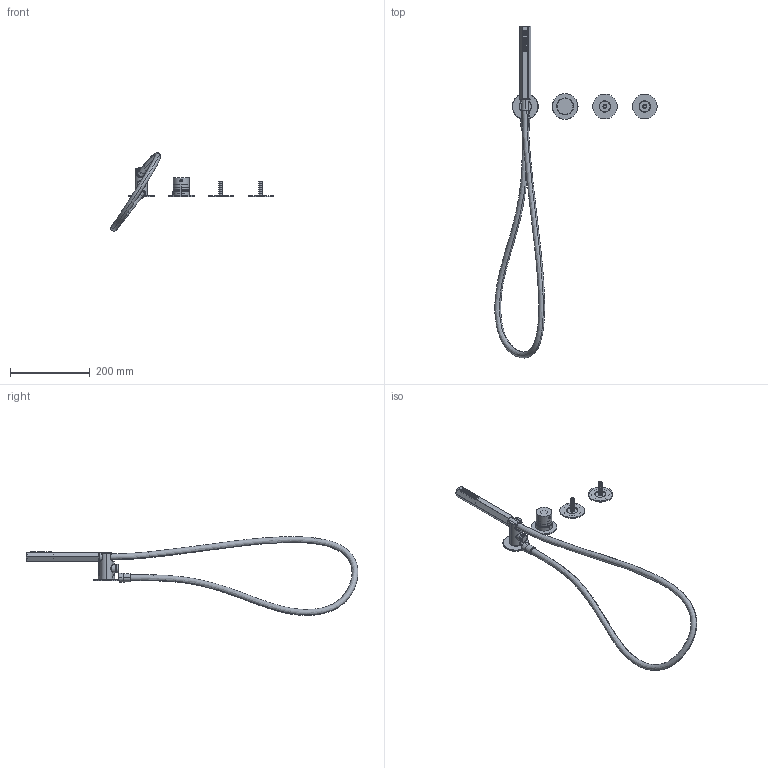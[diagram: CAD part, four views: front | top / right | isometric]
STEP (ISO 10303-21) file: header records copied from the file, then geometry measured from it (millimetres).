
FILE_DESCRIPTION((''),'2;1');
FILE_NAME('29000N019SB00000_SW0002','2024-05-28T09:47:53',('matteo.follador'),(''),'CREO PARAMETRIC BY PTC INC, 2022424','CREO PARAMETRIC BY PTC INC, 2022424','');
FILE_SCHEMA(('AUTOMOTIVE_DESIGN { 1 0 10303 214 1 1 1 1 }'));
Products named in the file (1): 29000N019SB00000_SW0002
Bounding box: 407.05 x 833.02 x 197.87 mm (x, y, z)
Volume: 423290 mm3; surface area: 162246.6 mm2
Topology: 45 solids, 47 shells, 1016 faces, 2282 edges, 1443 vertices
Faces by surface type: cylinder 401, plane 318, torus 96, extrusion 82, bspline 56, cone 52, sphere 11
Entity records: 58455 total; most frequent: CARTESIAN_POINT 27396, DIRECTION 4626, ORIENTED_EDGE 4528, EDGE_CURVE 2264, AXIS2_PLACEMENT_3D 1870, VERTEX_POINT 1443, EDGE_LOOP 1219, FILL_AREA_STYLE_COLOUR 1217
